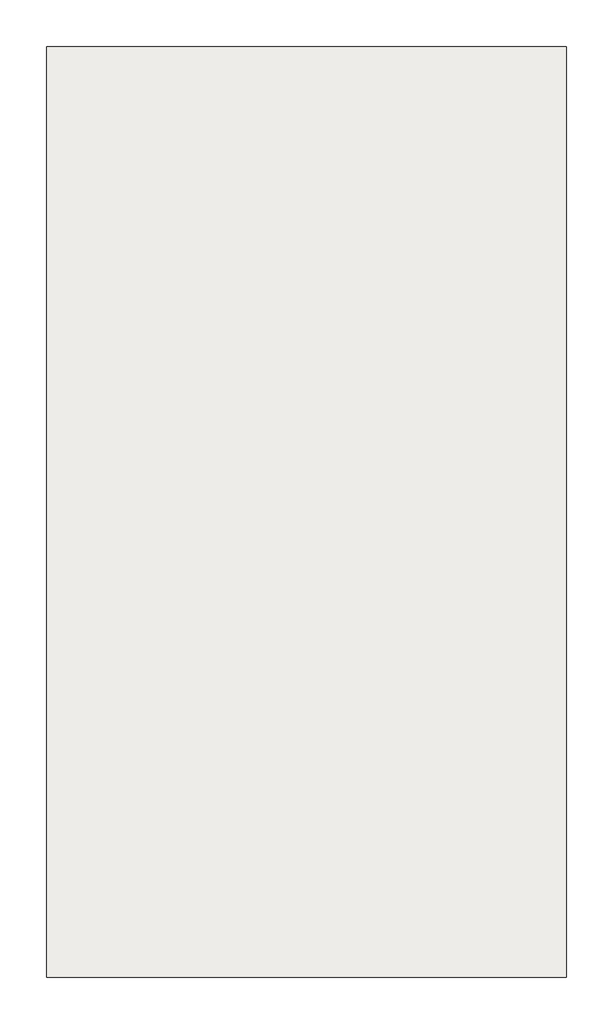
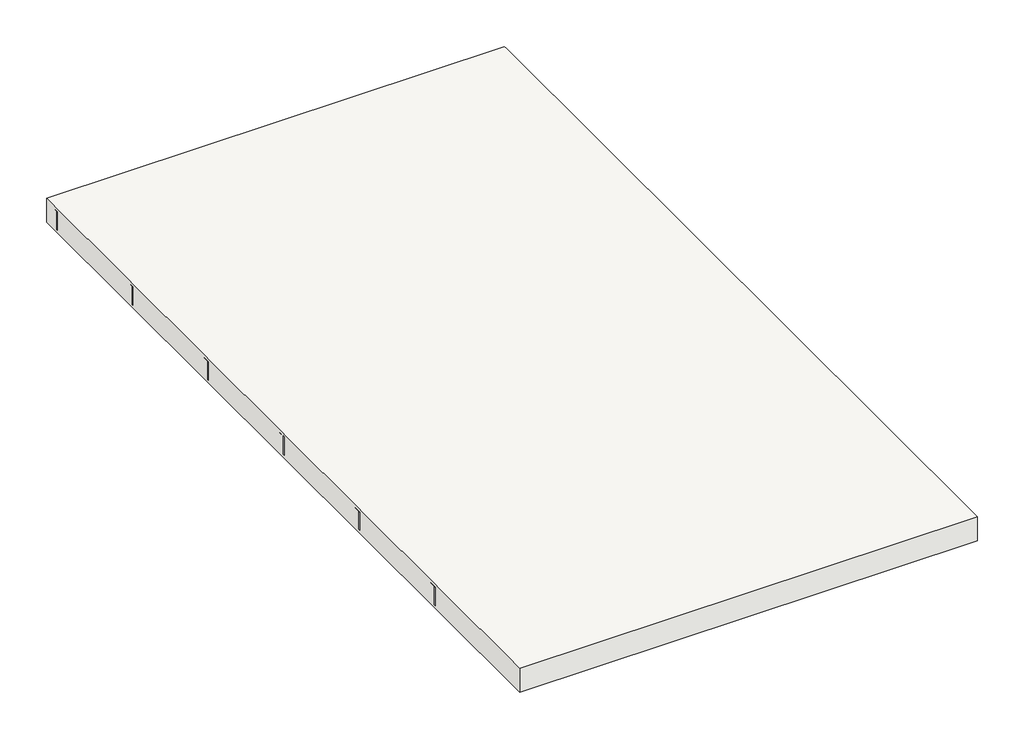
# One storey: 6 beams, 1 slab.
"""IFC4 building model written with IfcOpenShell, lengths in millimetres."""

from ifc_helpers import new_model, si_unit, origin, place, context, project, spatial, faceted_brep, transform, mapped, element, save
from components import beam_910e088e

model = new_model("IFC4")

# Units and contexts
model_context = context("Model", 3, world=origin())
ifc_project = project(units=[si_unit("LENGTHUNIT", "METRE", prefix="MILLI")], contexts=[model_context])

# Site, building, storey
site = spatial("IfcSite", under=ifc_project)
building = spatial("IfcBuilding", under=site)
storey = spatial("IfcBuildingStorey", under=building, Name="Этаж 3", Elevation=6000.0)

# Beams
placement = place(None, origin())
beam_shape = beam_910e088e(model_context)
element("IfcBeam", 1, ObjectType="Мерные пиломатериалы : 50х130", at=placement, inside=storey, context=model_context, shape_type="MappedRepresentation", body=[
    mapped(beam_shape, transform((36892.721519, 810.123185, 5915.0), x_axis=(-0.9998992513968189, 0.014194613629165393, 0.0), y_axis=(-0.014194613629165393, -0.9998992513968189, 0.0), z_axis=(0.0, 0.0, 1.0))),
])
element("IfcBeam", 2, ObjectType="Мерные пиломатериалы : 50х130", at=placement, inside=storey, context=model_context, shape_type="MappedRepresentation", body=[
    mapped(beam_shape, transform((36892.721519, 5170.123185, 5915.0), x_axis=(-0.9998992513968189, 0.014194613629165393, 0.0), y_axis=(-0.014194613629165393, -0.9998992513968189, 0.0), z_axis=(0.0, 0.0, 1.0))),
])
element("IfcBeam", 3, ObjectType="Мерные пиломатериалы : 50х130", at=placement, inside=storey, context=model_context, shape_type="MappedRepresentation", body=[
    mapped(beam_shape, transform((36892.721519, 1682.123185, 5915.0), x_axis=(-0.9998992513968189, 0.014194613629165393, 0.0), y_axis=(-0.014194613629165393, -0.9998992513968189, 0.0), z_axis=(0.0, 0.0, 1.0))),
])
element("IfcBeam", 4, ObjectType="Мерные пиломатериалы : 50х130", at=placement, inside=storey, context=model_context, shape_type="MappedRepresentation", body=[
    mapped(beam_shape, transform((36892.721519, 2554.123185, 5915.0), x_axis=(-0.9998992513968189, 0.014194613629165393, 0.0), y_axis=(-0.014194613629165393, -0.9998992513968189, 0.0), z_axis=(0.0, 0.0, 1.0))),
])
element("IfcBeam", 5, ObjectType="Мерные пиломатериалы : 50х130", at=placement, inside=storey, context=model_context, shape_type="MappedRepresentation", body=[
    mapped(beam_shape, transform((36892.721519, 3426.123185, 5915.0), x_axis=(-0.9998992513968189, 0.014194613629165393, 0.0), y_axis=(-0.014194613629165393, -0.9998992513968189, 0.0), z_axis=(0.0, 0.0, 1.0))),
])
element("IfcBeam", 6, ObjectType="Мерные пиломатериалы : 50х130", at=placement, inside=storey, context=model_context, shape_type="MappedRepresentation", body=[
    mapped(beam_shape, transform((36892.721519, 4298.123185, 5915.0), x_axis=(-0.9998992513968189, 0.014194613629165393, 0.0), y_axis=(-0.014194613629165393, -0.9998992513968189, 0.0), z_axis=(0.0, 0.0, 1.0))),
])

# Slab
element("IfcSlab", 7, ObjectType="Чердачное перекрытие по деревянным балкам 170мм (Изоляция ЭКОВЕР ЛАЙТ 30 50мм)", at=placement, inside=storey, context=model_context, shape_type="Brep", body=[
    faceted_brep([(38417.721519, -168.2278481, 5830.0), (38397.721519, -168.2278481, 5830.0), (35367.721519, -168.2278481, 5830.0), (35367.721519, 5271.7721519, 5830.0), (35367.721519, 5291.7721519, 5830.0), (38417.721519, 5291.7721519, 5830.0), (38417.721519, 5271.7721519, 5830.0), (38417.721519, -168.2278481, 6000.0), (38417.721519, 5271.7721519, 6000.0), (38417.721519, 5291.7721519, 6000.0), (35367.721519, 5291.7721519, 6000.0), (35367.721519, 5271.7721519, 6000.0), (35367.721519, -168.2278481, 6000.0), (38397.721519, -168.2278481, 6000.0)], [[[0, 1, 2, 3, 4, 5, 6]], [[7, 8, 9, 10, 11, 12, 13]], [[2, 1, 0, 7, 13, 12]], [[4, 3, 2, 12, 11, 10]], [[5, 4, 10, 9]], [[0, 6, 5, 9, 8, 7]]]),
])

save(model, "model.ifc")
